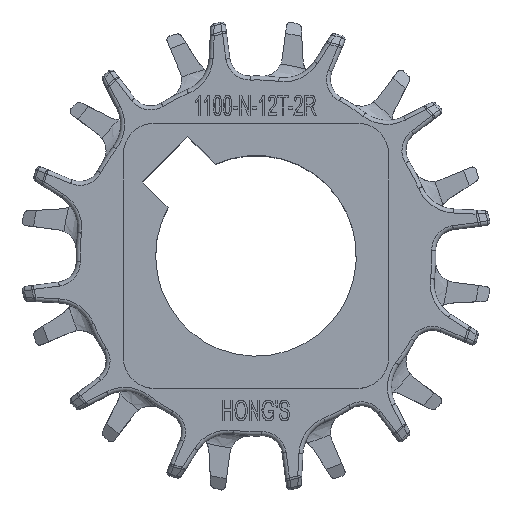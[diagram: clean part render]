
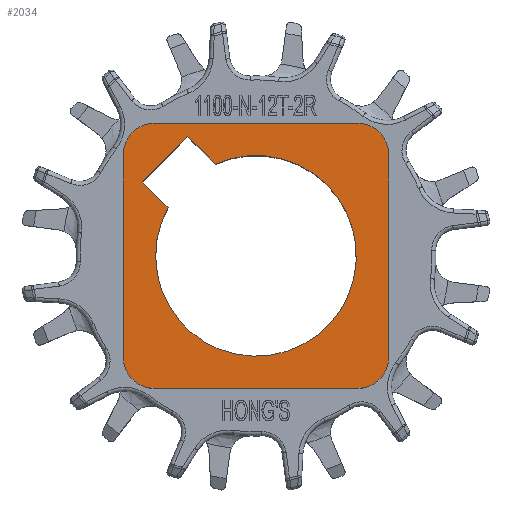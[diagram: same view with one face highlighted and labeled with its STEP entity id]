
A CAD part, top view. The second image highlights one B-rep face of the part: STEP entity #2034.
In plain terms, the highlighted planar face has unit normal (0, 0, 1).
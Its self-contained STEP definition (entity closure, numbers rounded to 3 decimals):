
#2034=ADVANCED_FACE('',(#3111,#3112),#2857,.T.);
#2857=PLANE('',#13750);
#3111=FACE_BOUND('',#3146,.T.);
#3112=FACE_BOUND('',#3147,.T.);
#3146=EDGE_LOOP('',(#4670,#4671,#4672,#4673,#4674,#4675,#4676,#4677));
#3147=EDGE_LOOP('',(#4678,#4679,#4680,#4681));
#3996=CIRCLE('',#13745,3.81);
#3997=CIRCLE('',#13746,3.81);
#3998=CIRCLE('',#13747,3.81);
#3999=CIRCLE('',#13748,3.81);
#4000=CIRCLE('',#13749,12.5);
#4670=ORIENTED_EDGE('',*,*,#9874,.F.);
#4671=ORIENTED_EDGE('',*,*,#9875,.F.);
#4672=ORIENTED_EDGE('',*,*,#9876,.F.);
#4673=ORIENTED_EDGE('',*,*,#9877,.F.);
#4674=ORIENTED_EDGE('',*,*,#9878,.F.);
#4675=ORIENTED_EDGE('',*,*,#9879,.F.);
#4676=ORIENTED_EDGE('',*,*,#9880,.F.);
#4677=ORIENTED_EDGE('',*,*,#9881,.F.);
#4678=ORIENTED_EDGE('',*,*,#9882,.T.);
#4679=ORIENTED_EDGE('',*,*,#9883,.T.);
#4680=ORIENTED_EDGE('',*,*,#9884,.T.);
#4681=ORIENTED_EDGE('',*,*,#9885,.T.);
#8670=VERTEX_POINT('',#18930);
#8671=VERTEX_POINT('',#18931);
#8672=VERTEX_POINT('',#18933);
#8673=VERTEX_POINT('',#18935);
#8674=VERTEX_POINT('',#18937);
#8675=VERTEX_POINT('',#18939);
#8676=VERTEX_POINT('',#18941);
#8677=VERTEX_POINT('',#18943);
#8678=VERTEX_POINT('',#18946);
#8679=VERTEX_POINT('',#18947);
#8680=VERTEX_POINT('',#18949);
#8681=VERTEX_POINT('',#18951);
#9874=EDGE_CURVE('',#8670,#8671,#11874,.T.);
#9875=EDGE_CURVE('',#8672,#8670,#3996,.T.);
#9876=EDGE_CURVE('',#8673,#8672,#11875,.T.);
#9877=EDGE_CURVE('',#8674,#8673,#3997,.T.);
#9878=EDGE_CURVE('',#8675,#8674,#11876,.T.);
#9879=EDGE_CURVE('',#8676,#8675,#3998,.T.);
#9880=EDGE_CURVE('',#8677,#8676,#11877,.T.);
#9881=EDGE_CURVE('',#8671,#8677,#3999,.T.);
#9882=EDGE_CURVE('',#8678,#8679,#11878,.T.);
#9883=EDGE_CURVE('',#8679,#8680,#11879,.T.);
#9884=EDGE_CURVE('',#8680,#8681,#4000,.T.);
#9885=EDGE_CURVE('',#8681,#8678,#11880,.T.);
#11874=LINE('',#18929,#12760);
#11875=LINE('',#18934,#12761);
#11876=LINE('',#18938,#12762);
#11877=LINE('',#18942,#12763);
#11878=LINE('',#18945,#12764);
#11879=LINE('',#18948,#12765);
#11880=LINE('',#18952,#12766);
#12760=VECTOR('',#15146,1.);
#12761=VECTOR('',#15149,1.);
#12762=VECTOR('',#15152,1.);
#12763=VECTOR('',#15155,1.);
#12764=VECTOR('',#15158,1.);
#12765=VECTOR('',#15159,1.);
#12766=VECTOR('',#15162,1.);
#13745=AXIS2_PLACEMENT_3D('',#18932,#15147,#15148);
#13746=AXIS2_PLACEMENT_3D('',#18936,#15150,#15151);
#13747=AXIS2_PLACEMENT_3D('',#18940,#15153,#15154);
#13748=AXIS2_PLACEMENT_3D('',#18944,#15156,#15157);
#13749=AXIS2_PLACEMENT_3D('',#18950,#15160,#15161);
#13750=AXIS2_PLACEMENT_3D('',#18953,#15163,#15164);
#15146=DIRECTION('',(0.,1.,0.));
#15147=DIRECTION('',(0.,0.,-1.));
#15148=DIRECTION('',(0.,-1.,0.));
#15149=DIRECTION('',(-1.,0.,0.));
#15150=DIRECTION('',(0.,0.,-1.));
#15151=DIRECTION('',(1.,0.,0.));
#15152=DIRECTION('',(0.,-1.,0.));
#15153=DIRECTION('',(0.,0.,-1.));
#15154=DIRECTION('',(0.,1.,0.));
#15155=DIRECTION('',(1.,0.,0.));
#15156=DIRECTION('',(0.,0.,-1.));
#15157=DIRECTION('',(-1.,0.,0.));
#15158=DIRECTION('',(0.707,0.707,0.));
#15159=DIRECTION('',(0.707,-0.707,0.));
#15160=DIRECTION('',(0.,0.,-1.));
#15161=DIRECTION('',(-0.707,0.707,0.));
#15162=DIRECTION('',(-0.707,0.707,0.));
#15163=DIRECTION('',(0.,0.,1.));
#15164=DIRECTION('',(-0.707,-0.707,0.));
#18929=CARTESIAN_POINT('',(-16.51,-12.7,12.446));
#18930=CARTESIAN_POINT('',(-16.51,-12.7,12.446));
#18931=CARTESIAN_POINT('',(-16.51,12.7,12.446));
#18932=CARTESIAN_POINT('',(-12.7,-12.7,12.446));
#18933=CARTESIAN_POINT('',(-12.7,-16.51,12.446));
#18934=CARTESIAN_POINT('',(12.7,-16.51,12.446));
#18935=CARTESIAN_POINT('',(12.7,-16.51,12.446));
#18936=CARTESIAN_POINT('',(12.7,-12.7,12.446));
#18937=CARTESIAN_POINT('',(16.51,-12.7,12.446));
#18938=CARTESIAN_POINT('',(16.51,12.7,12.446));
#18939=CARTESIAN_POINT('',(16.51,12.7,12.446));
#18940=CARTESIAN_POINT('',(12.7,12.7,12.446));
#18941=CARTESIAN_POINT('',(12.7,16.51,12.446));
#18942=CARTESIAN_POINT('',(-12.7,16.51,12.446));
#18943=CARTESIAN_POINT('',(-12.7,16.51,12.446));
#18944=CARTESIAN_POINT('',(-12.7,12.7,12.446));
#18945=CARTESIAN_POINT('',(0.,23.349,12.446));
#18946=CARTESIAN_POINT('',(-14.149,9.199,12.446));
#18947=CARTESIAN_POINT('',(-8.492,14.856,12.446));
#18948=CARTESIAN_POINT('',(3.182,3.182,12.446));
#18949=CARTESIAN_POINT('',(-5.064,11.428,12.446));
#18950=CARTESIAN_POINT('',(0.,0.,12.446));
#18951=CARTESIAN_POINT('',(-10.96,6.01,12.446));
#18952=CARTESIAN_POINT('',(-2.475,-2.475,12.446));
#18953=CARTESIAN_POINT('',(0.,0.,12.446));
